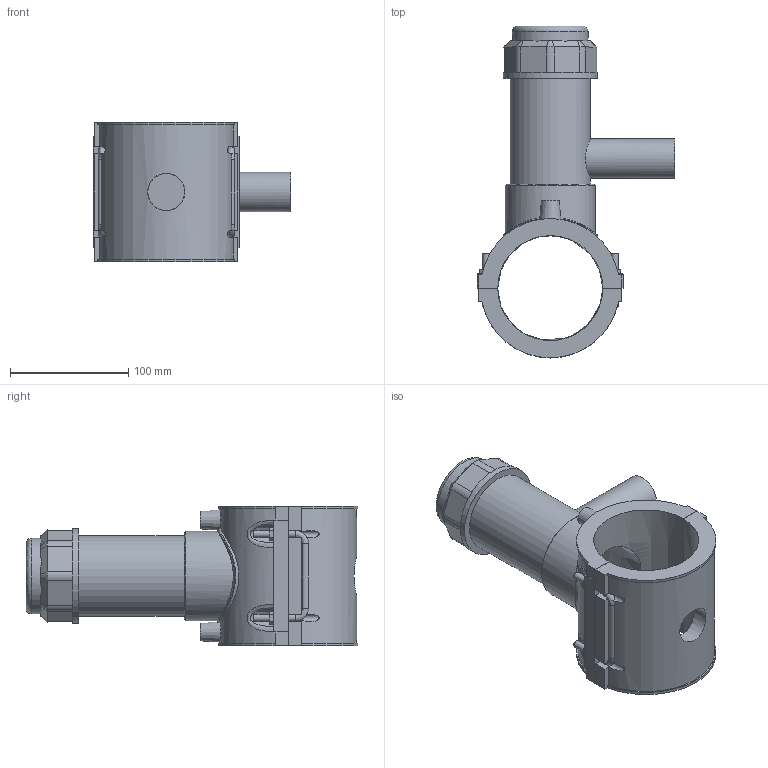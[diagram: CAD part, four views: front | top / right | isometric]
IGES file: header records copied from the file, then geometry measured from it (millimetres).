
Global section: file name: 5963BB03030010.ipt; native system: Autodesk Inventor 2019; preprocessor: unknown; author: KIM; date: 20210830.101347; units: millimetre
Bounding box: 166.35 x 280.2 x 118.11 mm (x, y, z)
Volume: 860789.2 mm3; surface area: 178278.6 mm2
Topology: 1 solids, 1 shells, 210 faces, 552 edges, 361 vertices
Faces by surface type: plane 128, cylinder 37, revolution 24, cone 15, bspline 6
Full cylindrical faces by diameter (mm): 4 x2, 6 x8, 33.3 x1, 63.864 x1, 67.856 x1, 75.838 x1, 79.83 x1
